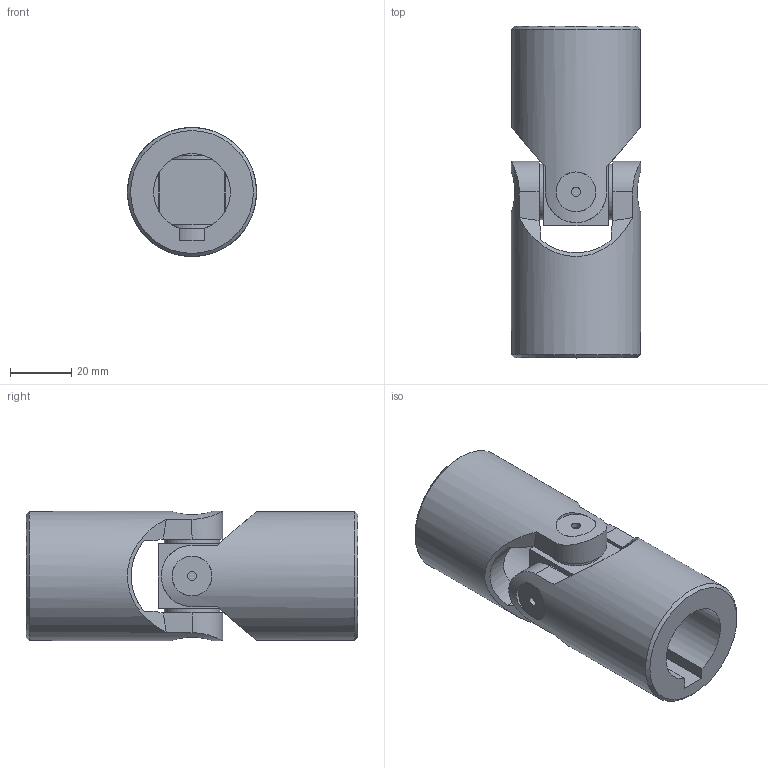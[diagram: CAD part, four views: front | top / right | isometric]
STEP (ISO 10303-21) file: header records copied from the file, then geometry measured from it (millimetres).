
FILE_DESCRIPTION(/* description */ ('EXTENSIBLE TRANSIMISSIONS Series G DIN 808 -2-'),/* implementation_level */ '2;1');
FILE_NAME(/* name */ '\\SRV2016\Societa\Stefano\Disegni 3D\Dis. Clienti\0000Catalogo 3D\01Singoli G-GB\Ø42_5GB-1C_SGBS251C.stp',/* time_stamp */ '2021-11-10T15:05:42+01:00',/* author */ ('acquisti'),/* organization */ ('MARIOFERRI'),/* preprocessor_version */ 'ST-DEVELOPER v15.6',/* originating_system */ 'Autodesk Inventor 2015',/* authorisation */ '');
FILE_SCHEMA (('AUTOMOTIVE_DESIGN { 1 0 10303 214 3 1 1 }'));
Length unit declared in the file: millimetre
Products named in the file (4): 3G SFE; 5GB MOS; 5GB MOC; Assieme8
Assembly tree (3 placements, depth 2):
  Assieme8
    3G SFE
    5GB MOS
    5GB MOC
Bounding box: 42 x 108 x 42 mm (x, y, z)
Volume: 92137.7 mm3; surface area: 27514.6 mm2
Topology: 3 solids, 3 shells, 87 faces, 205 edges, 134 vertices
Faces by surface type: plane 43, cylinder 32, cone 10, torus 2
Full cylindrical faces by diameter (mm): 3 x4, 18 x4, 25 x1, 42 x2
Entity records: 2874 total; most frequent: CARTESIAN_POINT 949, ORIENTED_EDGE 378, DIRECTION 367, EDGE_CURVE 189, AXIS2_PLACEMENT_3D 162, VERTEX_POINT 133, EDGE_LOOP 116, FACE_OUTER_BOUND 87
